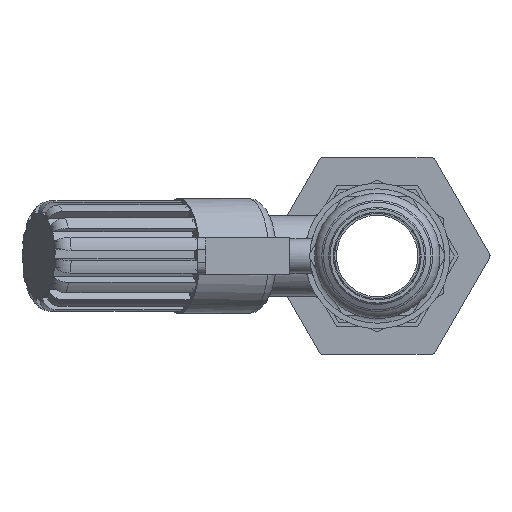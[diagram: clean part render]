
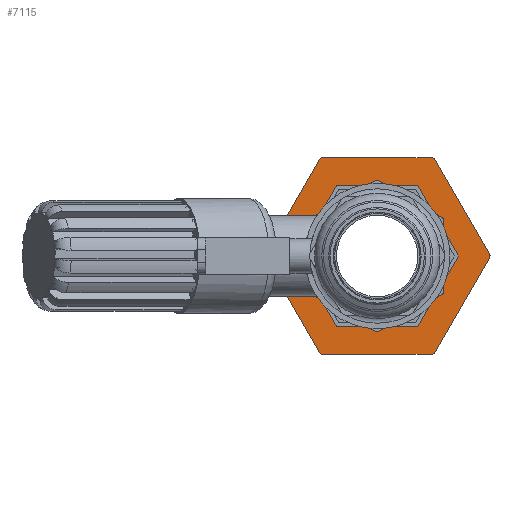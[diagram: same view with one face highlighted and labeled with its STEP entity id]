
A CAD part, left-side view. The second image highlights one B-rep face of the part: STEP entity #7115.
In plain terms, the highlighted planar face has unit normal (-1, 0, 0).
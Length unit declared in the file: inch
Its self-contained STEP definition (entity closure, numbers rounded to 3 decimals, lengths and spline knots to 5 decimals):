
#594=LINE('',#12210,#1170);
#606=LINE('',#12246,#1182);
#624=LINE('',#12297,#1200);
#628=LINE('',#12309,#1204);
#632=LINE('',#12321,#1208);
#636=LINE('',#12332,#1212);
#638=LINE('',#12337,#1214);
#639=LINE('',#12341,#1215);
#640=LINE('',#12345,#1216);
#641=LINE('',#12349,#1217);
#642=LINE('',#12353,#1218);
#643=LINE('',#12357,#1219);
#1170=VECTOR('',#9597,0.3937);
#1182=VECTOR('',#9633,0.3937);
#1200=VECTOR('',#9685,0.3937);
#1204=VECTOR('',#9697,0.3937);
#1208=VECTOR('',#9709,0.3937);
#1212=VECTOR('',#9721,0.3937);
#1214=VECTOR('',#9725,0.3937);
#1215=VECTOR('',#9728,0.3937);
#1216=VECTOR('',#9731,0.3937);
#1217=VECTOR('',#9734,0.3937);
#1218=VECTOR('',#9737,0.3937);
#1219=VECTOR('',#9740,0.3937);
#1447=FACE_BOUND('',#2159,.T.);
#1758=FACE_OUTER_BOUND('',#2158,.T.);
#2158=EDGE_LOOP('',(#5826,#5827,#5828,#5829,#5830,#5831,#5832,#5833,#5834,
#5835,#5836,#5837));
#2159=EDGE_LOOP('',(#5838,#5839,#5840,#5841,#5842,#5843,#5844,#5845,#5846,
#5847,#5848,#5849));
#2486=CIRCLE('',#7893,0.025);
#2490=CIRCLE('',#7901,0.025);
#2496=CIRCLE('',#7913,0.025);
#2502=CIRCLE('',#7926,0.025);
#2504=CIRCLE('',#7930,0.025);
#2506=CIRCLE('',#7934,0.025);
#2508=CIRCLE('',#7938,0.05);
#2509=CIRCLE('',#7939,0.05);
#2510=CIRCLE('',#7940,0.05);
#2511=CIRCLE('',#7941,0.05);
#2512=CIRCLE('',#7942,0.05);
#2513=CIRCLE('',#7943,0.05);
#3091=VERTEX_POINT('',#12200);
#3092=VERTEX_POINT('',#12201);
#3095=VERTEX_POINT('',#12209);
#3101=VERTEX_POINT('',#12227);
#3107=VERTEX_POINT('',#12245);
#3113=VERTEX_POINT('',#12263);
#3123=VERTEX_POINT('',#12296);
#3125=VERTEX_POINT('',#12302);
#3127=VERTEX_POINT('',#12308);
#3129=VERTEX_POINT('',#12314);
#3131=VERTEX_POINT('',#12320);
#3133=VERTEX_POINT('',#12326);
#3135=VERTEX_POINT('',#12335);
#3136=VERTEX_POINT('',#12336);
#3137=VERTEX_POINT('',#12338);
#3138=VERTEX_POINT('',#12340);
#3139=VERTEX_POINT('',#12342);
#3140=VERTEX_POINT('',#12344);
#3141=VERTEX_POINT('',#12346);
#3142=VERTEX_POINT('',#12348);
#3143=VERTEX_POINT('',#12350);
#3144=VERTEX_POINT('',#12352);
#3145=VERTEX_POINT('',#12354);
#3146=VERTEX_POINT('',#12356);
#4001=EDGE_CURVE('',#3091,#3092,#2486,.T.);
#4005=EDGE_CURVE('',#3095,#3091,#594,.T.);
#4014=EDGE_CURVE('',#3101,#3095,#2490,.T.);
#4023=EDGE_CURVE('',#3107,#3101,#606,.T.);
#4032=EDGE_CURVE('',#3113,#3107,#2496,.T.);
#4049=EDGE_CURVE('',#3092,#3123,#624,.T.);
#4052=EDGE_CURVE('',#3123,#3125,#2502,.T.);
#4055=EDGE_CURVE('',#3125,#3127,#628,.T.);
#4058=EDGE_CURVE('',#3127,#3129,#2504,.T.);
#4061=EDGE_CURVE('',#3129,#3131,#632,.T.);
#4064=EDGE_CURVE('',#3131,#3133,#2506,.T.);
#4067=EDGE_CURVE('',#3133,#3113,#636,.T.);
#4069=EDGE_CURVE('',#3135,#3136,#638,.T.);
#4070=EDGE_CURVE('',#3136,#3137,#2508,.T.);
#4071=EDGE_CURVE('',#3137,#3138,#639,.T.);
#4072=EDGE_CURVE('',#3138,#3139,#2509,.T.);
#4073=EDGE_CURVE('',#3139,#3140,#640,.T.);
#4074=EDGE_CURVE('',#3140,#3141,#2510,.T.);
#4075=EDGE_CURVE('',#3141,#3142,#641,.T.);
#4076=EDGE_CURVE('',#3142,#3143,#2511,.T.);
#4077=EDGE_CURVE('',#3143,#3144,#642,.T.);
#4078=EDGE_CURVE('',#3144,#3145,#2512,.T.);
#4079=EDGE_CURVE('',#3145,#3146,#643,.T.);
#4080=EDGE_CURVE('',#3146,#3135,#2513,.T.);
#5826=ORIENTED_EDGE('',*,*,#4069,.T.);
#5827=ORIENTED_EDGE('',*,*,#4070,.T.);
#5828=ORIENTED_EDGE('',*,*,#4071,.T.);
#5829=ORIENTED_EDGE('',*,*,#4072,.T.);
#5830=ORIENTED_EDGE('',*,*,#4073,.T.);
#5831=ORIENTED_EDGE('',*,*,#4074,.T.);
#5832=ORIENTED_EDGE('',*,*,#4075,.T.);
#5833=ORIENTED_EDGE('',*,*,#4076,.T.);
#5834=ORIENTED_EDGE('',*,*,#4077,.T.);
#5835=ORIENTED_EDGE('',*,*,#4078,.T.);
#5836=ORIENTED_EDGE('',*,*,#4079,.T.);
#5837=ORIENTED_EDGE('',*,*,#4080,.T.);
#5838=ORIENTED_EDGE('',*,*,#4067,.T.);
#5839=ORIENTED_EDGE('',*,*,#4032,.T.);
#5840=ORIENTED_EDGE('',*,*,#4023,.T.);
#5841=ORIENTED_EDGE('',*,*,#4014,.T.);
#5842=ORIENTED_EDGE('',*,*,#4005,.T.);
#5843=ORIENTED_EDGE('',*,*,#4001,.T.);
#5844=ORIENTED_EDGE('',*,*,#4049,.T.);
#5845=ORIENTED_EDGE('',*,*,#4052,.T.);
#5846=ORIENTED_EDGE('',*,*,#4055,.T.);
#5847=ORIENTED_EDGE('',*,*,#4058,.T.);
#5848=ORIENTED_EDGE('',*,*,#4061,.T.);
#5849=ORIENTED_EDGE('',*,*,#4064,.T.);
#6413=PLANE('',#7937);
#7115=ADVANCED_FACE('',(#1758,#1447),#6413,.F.);
#7893=AXIS2_PLACEMENT_3D('',#12202,#9589,#9590);
#7901=AXIS2_PLACEMENT_3D('',#12228,#9614,#9615);
#7913=AXIS2_PLACEMENT_3D('',#12264,#9650,#9651);
#7926=AXIS2_PLACEMENT_3D('',#12303,#9690,#9691);
#7930=AXIS2_PLACEMENT_3D('',#12315,#9702,#9703);
#7934=AXIS2_PLACEMENT_3D('',#12327,#9714,#9715);
#7937=AXIS2_PLACEMENT_3D('',#12334,#9723,#9724);
#7938=AXIS2_PLACEMENT_3D('',#12339,#9726,#9727);
#7939=AXIS2_PLACEMENT_3D('',#12343,#9729,#9730);
#7940=AXIS2_PLACEMENT_3D('',#12347,#9732,#9733);
#7941=AXIS2_PLACEMENT_3D('',#12351,#9735,#9736);
#7942=AXIS2_PLACEMENT_3D('',#12355,#9738,#9739);
#7943=AXIS2_PLACEMENT_3D('',#12358,#9741,#9742);
#9589=DIRECTION('center_axis',(1.,0.,0.));
#9590=DIRECTION('ref_axis',(0.,-0.5,0.866));
#9597=DIRECTION('',(0.,0.866,0.5));
#9614=DIRECTION('center_axis',(1.,0.,0.));
#9615=DIRECTION('ref_axis',(0.,0.5,0.866));
#9633=DIRECTION('',(0.,0.866,-0.5));
#9650=DIRECTION('center_axis',(1.,0.,0.));
#9651=DIRECTION('ref_axis',(0.,1.,0.));
#9685=DIRECTION('',(0.,0.,1.));
#9690=DIRECTION('center_axis',(1.,0.,0.));
#9691=DIRECTION('ref_axis',(0.,-1.,0.));
#9697=DIRECTION('',(0.,-0.866,0.5));
#9702=DIRECTION('center_axis',(1.,0.,0.));
#9703=DIRECTION('ref_axis',(0.,-0.5,-0.866));
#9709=DIRECTION('',(0.,-0.866,-0.5));
#9714=DIRECTION('center_axis',(1.,0.,0.));
#9715=DIRECTION('ref_axis',(0.,0.5,-0.866));
#9721=DIRECTION('',(0.,0.,-1.));
#9723=DIRECTION('center_axis',(1.,0.,0.));
#9724=DIRECTION('ref_axis',(0.,0.,-1.));
#9725=DIRECTION('',(0.,-0.5,-0.866));
#9726=DIRECTION('center_axis',(-1.,0.,0.));
#9727=DIRECTION('ref_axis',(0.,0.,1.));
#9728=DIRECTION('',(0.,-1.,0.));
#9729=DIRECTION('center_axis',(-1.,0.,0.));
#9730=DIRECTION('ref_axis',(0.,0.866,0.5));
#9731=DIRECTION('',(0.,-0.5,0.866));
#9732=DIRECTION('center_axis',(-1.,0.,0.));
#9733=DIRECTION('ref_axis',(0.,0.866,-0.5));
#9734=DIRECTION('',(0.,0.5,0.866));
#9735=DIRECTION('center_axis',(-1.,0.,0.));
#9736=DIRECTION('ref_axis',(0.,0.,-1.));
#9737=DIRECTION('',(0.,1.,0.));
#9738=DIRECTION('center_axis',(-1.,0.,0.));
#9739=DIRECTION('ref_axis',(0.,-0.866,-0.5));
#9740=DIRECTION('',(0.,0.5,-0.866));
#9741=DIRECTION('center_axis',(-1.,0.,0.));
#9742=DIRECTION('ref_axis',(0.,-0.866,0.5));
#12200=CARTESIAN_POINT('',(-0.315,0.645,-0.38682));
#12201=CARTESIAN_POINT('',(-0.315,0.6575,-0.36517));
#12202=CARTESIAN_POINT('Origin',(-0.315,0.6325,-0.36517));
#12209=CARTESIAN_POINT('',(-0.315,0.0125,-0.752));
#12210=CARTESIAN_POINT('',(-0.315,0.48688,-0.47812));
#12227=CARTESIAN_POINT('',(-0.315,-0.0125,-0.752));
#12228=CARTESIAN_POINT('Origin',(-0.315,0.,-0.73035));
#12245=CARTESIAN_POINT('',(-0.315,-0.645,-0.38682));
#12246=CARTESIAN_POINT('',(-0.315,-0.17063,-0.66071));
#12263=CARTESIAN_POINT('',(-0.315,-0.6575,-0.36517));
#12264=CARTESIAN_POINT('Origin',(-0.315,-0.6325,-0.36517));
#12296=CARTESIAN_POINT('',(-0.315,0.6575,0.36517));
#12297=CARTESIAN_POINT('',(-0.315,0.6575,0.18259));
#12302=CARTESIAN_POINT('',(-0.315,0.645,0.38682));
#12303=CARTESIAN_POINT('Origin',(-0.315,0.6325,0.36517));
#12308=CARTESIAN_POINT('',(-0.315,0.0125,0.752));
#12309=CARTESIAN_POINT('',(-0.315,0.17063,0.66071));
#12314=CARTESIAN_POINT('',(-0.315,-0.0125,0.752));
#12315=CARTESIAN_POINT('Origin',(-0.315,0.,0.73035));
#12320=CARTESIAN_POINT('',(-0.315,-0.645,0.38682));
#12321=CARTESIAN_POINT('',(-0.315,-0.48687,0.47812));
#12326=CARTESIAN_POINT('',(-0.315,-0.6575,0.36517));
#12327=CARTESIAN_POINT('Origin',(-0.315,-0.6325,0.36517));
#12332=CARTESIAN_POINT('',(-0.315,-0.6575,-0.18259));
#12334=CARTESIAN_POINT('Origin',(-0.315,0.,0.));
#12335=CARTESIAN_POINT('',(-0.315,1.11717,-0.025));
#12336=CARTESIAN_POINT('',(-0.315,0.58024,-0.955));
#12337=CARTESIAN_POINT('',(-0.315,1.11717,-0.025));
#12338=CARTESIAN_POINT('',(-0.315,0.53694,-0.98));
#12339=CARTESIAN_POINT('Origin',(-0.315,0.53694,-0.93));
#12340=CARTESIAN_POINT('',(-0.315,-0.53694,-0.98));
#12341=CARTESIAN_POINT('',(-0.315,0.53694,-0.98));
#12342=CARTESIAN_POINT('',(-0.315,-0.58024,-0.955));
#12343=CARTESIAN_POINT('Origin',(-0.315,-0.53694,-0.93));
#12344=CARTESIAN_POINT('',(-0.315,-1.11717,-0.025));
#12345=CARTESIAN_POINT('',(-0.315,-0.58024,-0.955));
#12346=CARTESIAN_POINT('',(-0.315,-1.11717,0.025));
#12347=CARTESIAN_POINT('Origin',(-0.315,-1.07387,0.));
#12348=CARTESIAN_POINT('',(-0.315,-0.58024,0.955));
#12349=CARTESIAN_POINT('',(-0.315,-1.11717,0.025));
#12350=CARTESIAN_POINT('',(-0.315,-0.53694,0.98));
#12351=CARTESIAN_POINT('Origin',(-0.315,-0.53694,0.93));
#12352=CARTESIAN_POINT('',(-0.315,0.53694,0.98));
#12353=CARTESIAN_POINT('',(-0.315,-0.53694,0.98));
#12354=CARTESIAN_POINT('',(-0.315,0.58024,0.955));
#12355=CARTESIAN_POINT('Origin',(-0.315,0.53694,0.93));
#12356=CARTESIAN_POINT('',(-0.315,1.11717,0.025));
#12357=CARTESIAN_POINT('',(-0.315,0.58024,0.955));
#12358=CARTESIAN_POINT('Origin',(-0.315,1.07387,0.));
